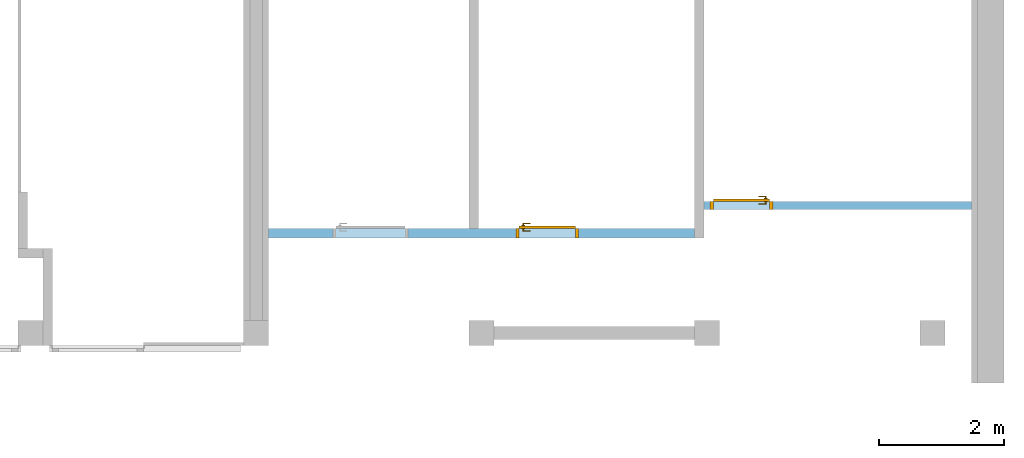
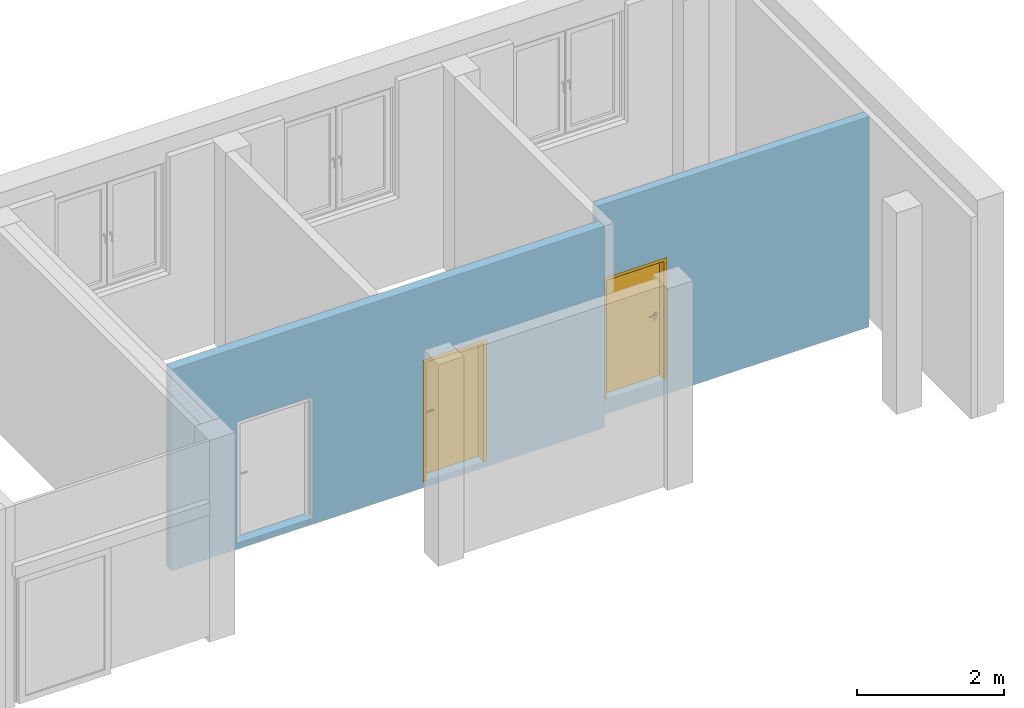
# One storey, part 35 of 37: 2 doors, 3 openings, plus 2 elements that do not belong to this part.
"""IFC4 building model written with IfcOpenShell, lengths in metres."""

import ifcopenshell
import ifcopenshell.guid

model = None  # the IFC model being written
_history = None  # IfcOwnerHistory: only IFC2X3 demands one
_inside = {}  # id of a spatial element -> (the spatial element, [elements in it])
_under = {}  # id of a project, library or spatial element -> (it, [spatial elements below it])
_declared = {}  # id of a project -> (the project, [libraries it declares])
_typed = {}  # id of a type object -> (the type object, [elements of that type])
_made_of = {}  # id of a material, layer set ... -> (it, [elements and type objects made of it])


def new_model(schema):
    """Start an empty IFC model of exactly this schema.

    Asked for "IFC4X3", IfcOpenShell would pick the latest addendum, in which some entities
    have other attributes; the version numbers below select the first issue.
    IFC2X3 requires an IfcOwnerHistory on every rooted entity: one is made here for all.
    """
    global model, _history
    if schema == "IFC4X3":
        model = ifcopenshell.file(schema_version=(4, 3, 0, 0))
    else:
        model = ifcopenshell.file(schema=schema)
    _inside.clear()
    _under.clear()
    _declared.clear()
    _typed.clear()
    _made_of.clear()
    _history = None
    if model.schema == "IFC2X3":
        org = make("IfcOrganization", Name="unknown")
        user = make(
            "IfcPersonAndOrganization",
            ThePerson=make("IfcPerson", FamilyName="unknown"),
            TheOrganization=org,
        )
        app = make(
            "IfcApplication",
            ApplicationDeveloper=org,
            Version="unknown",
            ApplicationFullName="unknown",
            ApplicationIdentifier="unknown",
        )
        _history = make(
            "IfcOwnerHistory",
            OwningUser=user,
            OwningApplication=app,
            ChangeAction="ADDED",
            CreationDate=0,
        )
    return model


def make(cls, **values):
    """One entity of the class cls with the attributes given. An attribute that is None is left unset."""
    return model.create_entity(
        cls, **{name: value for name, value in values.items() if value is not None}
    )


def entity(cls, *values):
    """Any entity or typed value of the class cls, its attributes in the order of the schema. None: left unset."""
    e = model.create_entity(cls)
    for i, value in enumerate(values):
        if value is not None:
            e[i] = value
    return e


def rooted(cls, **values):
    """An entity with a GlobalId (a new one), such as an element, a storey or a relation."""
    return make(cls, GlobalId=ifcopenshell.guid.new(), OwnerHistory=_history, **values)


def si_unit(unit_type, name, prefix=None):
    """IfcSIUnit, for example si_unit("LENGTHUNIT", "METRE", prefix="MILLI")."""
    return make("IfcSIUnit", UnitType=unit_type, Prefix=prefix, Name=name)


def converted_unit(unit_type, name, factor, base, dimensions=None, offset=None):
    """IfcConversionBasedUnit, such as the inch: factor (a typed value) times the base unit."""
    return make(
        "IfcConversionBasedUnit"
        if offset is None
        else "IfcConversionBasedUnitWithOffset",
        ConversionOffset=offset,
        Dimensions=None
        if dimensions is None
        else entity("IfcDimensionalExponents", *dimensions),
        UnitType=unit_type,
        Name=name,
        ConversionFactor=make(
            "IfcMeasureWithUnit", ValueComponent=factor, UnitComponent=base
        ),
    )


def derived_unit(unit_type, elements):
    """IfcDerivedUnit: a product of units, each with its exponent."""
    return make(
        "IfcDerivedUnit",
        Elements=[
            make("IfcDerivedUnitElement", Unit=unit, Exponent=power)
            for unit, power in elements
        ],
        UnitType=unit_type,
    )


def assignment(units):
    """IfcUnitAssignment: the units of a project."""
    return None if units is None else make("IfcUnitAssignment", Units=units)


def point(xyz):
    """IfcCartesianPoint."""
    return None if xyz is None else make("IfcCartesianPoint", Coordinates=xyz)


def direction(xyz):
    """IfcDirection."""
    return None if xyz is None else make("IfcDirection", DirectionRatios=xyz)


def frame(location, z_axis=None, x_axis=None):
    """IfcAxis2Placement3D, a coordinate frame: its origin and axes. An axis left out is left unset."""
    return make(
        "IfcAxis2Placement3D",
        Location=point(location),
        Axis=direction(z_axis),
        RefDirection=direction(x_axis),
    )


def frame_2d(location, x_axis=None):
    """IfcAxis2Placement2D, a coordinate frame in the plane: its origin and x axis."""
    return make(
        "IfcAxis2Placement2D", Location=point(location), RefDirection=direction(x_axis)
    )


def origin():
    """The frame at (0, 0, 0) with its axes left unset."""
    return frame((0.0, 0.0, 0.0))


def origin_with_axes():
    """The frame at (0, 0, 0) with the z axis (0, 0, 1) and the x axis (1, 0, 0) written out."""
    return frame((0.0, 0.0, 0.0), z_axis=(0.0, 0.0, 1.0), x_axis=(1.0, 0.0, 0.0))


def place(relative_to, where):
    """IfcLocalPlacement: puts the frame where relative to a parent placement (None: the world)."""
    return make(
        "IfcLocalPlacement", PlacementRelTo=relative_to, RelativePlacement=where
    )


def context(
    kind, dimensions, precision=None, world=None, true_north=None, identifier=None
):
    """IfcGeometricRepresentationContext, for example the 3D "Model" context."""
    return make(
        "IfcGeometricRepresentationContext",
        ContextIdentifier=identifier,
        ContextType=kind,
        CoordinateSpaceDimension=dimensions,
        Precision=precision,
        WorldCoordinateSystem=world,
        TrueNorth=true_north,
    )


def subcontext(parent, identifier, kind, view, scale=None):
    """IfcGeometricRepresentationSubContext, for example "Body" below "Model"."""
    return make(
        "IfcGeometricRepresentationSubContext",
        ContextIdentifier=identifier,
        ContextType=kind,
        ParentContext=parent,
        TargetScale=scale,
        TargetView=view,
    )


def project(units=None, contexts=None):
    """IfcProject with its units and contexts."""
    return rooted(
        "IfcProject",
        Name="project",
        RepresentationContexts=contexts,
        UnitsInContext=assignment(units),
    )


def spatial(cls, under=None, at=None, **own):
    """A site, building, storey or space (cls), placed at a placement, below another one or the project."""
    s = rooted(cls, ObjectPlacement=at, **own)
    if under is not None:
        _under.setdefault(under.id(), (under, []))[1].append(s)
    return s


def polyline(points):
    """IfcPolyline through the points."""
    return make("IfcPolyline", Points=[point(p) for p in points])


def profile(cls, at=None, kind="AREA", **sizes):
    """A parametric profile (cls). Its sizes go by their IFC names, for example OverallWidth=200.0."""
    return make(cls, ProfileType=kind, Position=at, **sizes)


def rectangle(**sizes):
    """IfcRectangleProfileDef."""
    return profile("IfcRectangleProfileDef", **sizes)


def outline(outer, holes=None, kind="AREA"):
    """IfcArbitraryClosedProfileDef: a profile drawn as a closed curve; with holes, ...WithVoids."""
    if holes is None:
        return make("IfcArbitraryClosedProfileDef", ProfileType=kind, OuterCurve=outer)
    return make(
        "IfcArbitraryProfileDefWithVoids",
        ProfileType=kind,
        OuterCurve=outer,
        InnerCurves=holes,
    )


def extrude(swept, where, along, depth):
    """IfcExtrudedAreaSolid: the profile swept, set in the frame where, extruded along a direction by depth."""
    return make(
        "IfcExtrudedAreaSolid",
        SweptArea=swept,
        Position=where,
        ExtrudedDirection=direction(along),
        Depth=depth,
    )


def faces_of(points, faces, orient=None, outer=None):
    """IfcFace entities. A face is a list of loops; a loop is a list of indices into points, from 0.

    orient and outer hold one flag for each loop. By default every Orientation is true, the
    first loop of a face is its IfcFaceOuterBound and the others are IfcFaceBound.
    """
    made = []
    for i, loops in enumerate(faces):
        bounds = []
        for j, loop in enumerate(loops):
            is_outer = j == 0 if outer is None else outer[i][j]
            bounds.append(
                make(
                    "IfcFaceOuterBound" if is_outer else "IfcFaceBound",
                    Bound=make("IfcPolyLoop", Polygon=[points[k] for k in loop]),
                    Orientation=True if orient is None else orient[i][j],
                )
            )
        made.append(make("IfcFace", Bounds=bounds))
    return made


def closed_shell(faces, orient=None, outer=None):
    """The faces of one IfcClosedShell. faceted_brep and surface_model build it on their shared points."""
    return ("IfcClosedShell", faces, orient, outer)


def open_shell(faces, orient=None, outer=None):
    """The faces of one IfcOpenShell. surface_model builds it on its shared points."""
    return ("IfcOpenShell", faces, orient, outer)


def surface_model(cls, points, shells):
    """IfcFaceBasedSurfaceModel or IfcShellBasedSurfaceModel (cls): surfaces that need not close."""
    shared = [point(p) for p in points]
    made = [make(c, CfsFaces=faces_of(shared, fs, o, b)) for c, fs, o, b in shells]
    if cls == "IfcFaceBasedSurfaceModel":
        return make(cls, FbsmFaces=made)
    return make(cls, SbsmBoundary=made)


def shape(context_of_items, identifier, shape_type, items):
    """IfcShapeRepresentation: the items that make up one representation, for example the "Body"."""
    return make(
        "IfcShapeRepresentation",
        ContextOfItems=context_of_items,
        RepresentationIdentifier=identifier,
        RepresentationType=shape_type,
        Items=items,
    )


def source(mapping_origin, context_of_items, identifier, shape_type, items):
    """IfcRepresentationMap: a shape defined once, which mapped items show again and again."""
    return make(
        "IfcRepresentationMap",
        MappingOrigin=mapping_origin,
        MappedRepresentation=shape(context_of_items, identifier, shape_type, items),
    )


def transform(
    local_origin,
    x_axis=None,
    y_axis=None,
    z_axis=None,
    scale=None,
    scale2=None,
    scale3=None,
    uniform=True,
):
    """IfcCartesianTransformationOperator3D, or its non-uniform kind. x_axis, y_axis, z_axis: its Axis1, 2, 3."""
    if uniform:
        return make(
            "IfcCartesianTransformationOperator3D",
            Axis1=direction(x_axis),
            Axis2=direction(y_axis),
            LocalOrigin=point(local_origin),
            Scale=scale,
            Axis3=direction(z_axis),
        )
    return make(
        "IfcCartesianTransformationOperator3DnonUniform",
        Axis1=direction(x_axis),
        Axis2=direction(y_axis),
        LocalOrigin=point(local_origin),
        Scale=scale,
        Axis3=direction(z_axis),
        Scale2=scale2,
        Scale3=scale3,
    )


def mapped(mapping_source, mapping_target):
    """IfcMappedItem: shows the shape of a source again, moved by a transform."""
    return make(
        "IfcMappedItem", MappingSource=mapping_source, MappingTarget=mapping_target
    )


def material(Name=None, Category=None):
    """IfcMaterial."""
    return make("IfcMaterial", Name=Name, Category=Category)


def layer(
    of_material, thickness, ventilated=None, Name=None, Category=None, Priority=None
):
    """IfcMaterialLayer: one layer of a wall or slab, of a material (None: an air gap)."""
    return make(
        "IfcMaterialLayer",
        Material=of_material,
        LayerThickness=thickness,
        IsVentilated=ventilated,
        Name=Name,
        Category=Category,
        Priority=Priority,
    )


def layer_set(layers, Name=None):
    """IfcMaterialLayerSet."""
    return make("IfcMaterialLayerSet", MaterialLayers=layers, LayerSetName=Name)


def layer_usage(for_layer_set, set_direction, sense, offset, extent=None):
    """IfcMaterialLayerSetUsage: how a layer set lies in its element."""
    return make(
        "IfcMaterialLayerSetUsage",
        ForLayerSet=for_layer_set,
        LayerSetDirection=set_direction,
        DirectionSense=sense,
        OffsetFromReferenceLine=offset,
        ReferenceExtent=extent,
    )


def made_of(thing, what):
    """Note that an element or type object is made of a material, layer set ...; save() writes the relation."""
    if what is not None:
        _made_of.setdefault(what.id(), (what, []))[1].append(thing)
    return thing


def type_object(cls, material=None, **own):
    """A type object (cls), such as IfcWallType, which elements share."""
    return made_of(rooted(cls, **own), material)


def element(
    cls,
    number,
    at=None,
    inside=None,
    cuts=None,
    type_object=None,
    material=None,
    context=None,
    identifier="Body",
    shape_type=None,
    held_by="IfcProductDefinitionShape",
    body=None,
    shapes=None,
    **own,
):
    """One element of the class cls, such as IfcWall. Its Tag is "e" and its number.

    at: its placement. inside: the storey or other place that contains it. cuts: it is an
    opening in that element (IfcRelVoidsElement). A single representation is given by context,
    identifier, shape_type and body (its items); several are given by shapes. held_by: the class
    of the entity that holds the representations. save() writes the other relations.
    """
    e = rooted(cls, Tag="e%d" % number, ObjectPlacement=at, **own)
    if body is not None:
        shapes = [shape(context, identifier, shape_type, body)]
    if shapes is not None:
        e.Representation = make(held_by, Representations=shapes)
    if inside is not None:
        _inside.setdefault(inside.id(), (inside, []))[1].append(e)
    if cuts is not None:
        rooted(
            "IfcRelVoidsElement", RelatingBuildingElement=cuts, RelatedOpeningElement=e
        )
    if type_object is not None:
        _typed.setdefault(type_object.id(), (type_object, []))[1].append(e)
    return made_of(e, material)


def fill(opening, filler):
    """IfcRelFillsElement: the door or window that sits in an opening."""
    return rooted(
        "IfcRelFillsElement",
        RelatingOpeningElement=opening,
        RelatedBuildingElement=filler,
    )


def aggregate(whole, parts):
    """IfcRelAggregates: a whole, such as a stair, and the parts it consists of."""
    return rooted("IfcRelAggregates", RelatingObject=whole, RelatedObjects=parts)


def save(model, path):
    """Write the relations noted so far, then the file.

    IfcRelAggregates (storeys below a building ...), IfcRelContainedInSpatialStructure (elements
    in a storey), IfcRelDefinesByType, IfcRelAssociatesMaterial and IfcRelDeclares: one each for
    every whole, place, type object, material and project.
    """
    for whole, parts in _under.values():
        aggregate(whole, parts)
    for where, things in _inside.values():
        rooted(
            "IfcRelContainedInSpatialStructure",
            RelatedElements=things,
            RelatingStructure=where,
        )
    for kind, things in _typed.values():
        rooted("IfcRelDefinesByType", RelatedObjects=things, RelatingType=kind)
    for what, things in _made_of.values():
        rooted("IfcRelAssociatesMaterial", RelatedObjects=things, RelatingMaterial=what)
    for by, libraries in _declared.values():
        rooted("IfcRelDeclares", RelatingContext=by, RelatedDefinitions=libraries)
    model.write(path)


model = new_model("IFC4")

# Units and contexts
model_context = context("Model", 3, precision=1e-05, world=origin())
body_context = subcontext(model_context, "Body", "Model", "MODEL_VIEW")
ifc_project = project(units=[si_unit("LENGTHUNIT", "METRE"), si_unit("AREAUNIT", "SQUARE_METRE"), si_unit("VOLUMEUNIT", "CUBIC_METRE"), si_unit("MASSUNIT", "GRAM", prefix="KILO"), converted_unit("PLANEANGLEUNIT", "DEGREE", entity("IfcPlaneAngleMeasure", 0.0174532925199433), si_unit("PLANEANGLEUNIT", "RADIAN"), dimensions=[0, 0, 0, 0, 0, 0, 0]), derived_unit("THERMALTRANSMITTANCEUNIT", [(si_unit("POWERUNIT", "WATT"), 1), (si_unit("THERMODYNAMICTEMPERATUREUNIT", "KELVIN"), -1), (si_unit("LENGTHUNIT", "METRE"), -2)]), derived_unit("VOLUMETRICFLOWRATEUNIT", [(si_unit("LENGTHUNIT", "METRE"), 3), (converted_unit("TIMEUNIT", "hour", entity("IfcTimeMeasure", 3600.0), si_unit("TIMEUNIT", "SECOND"), dimensions=[0, 0, 1, 0, 0, 0, 0]), -1), (si_unit("LENGTHUNIT", "METRE"), -1)])], contexts=[model_context])

# Site, building, storey
site_placement = place(None, origin())
site = spatial("IfcSite", under=ifc_project, at=site_placement, Name="3. ASŘ", CompositionType="ELEMENT")
building_placement = place(site_placement, origin())
building = spatial("IfcBuilding", under=site, at=building_placement, Name="Pavilon B", CompositionType="ELEMENT")
storey_placement = place(building_placement, origin())
storey = spatial("IfcBuildingStorey", under=building, at=storey_placement, Name="Půdorys 1.NP", CompositionType="ELEMENT", Elevation=0.0)

# Wall, openings, door
ifc_material_1 = material(Name="YTONG 150")
ifc_layer_1 = layer(ifc_material_1, 0.15)
ifc_layer_set_1 = layer_set([ifc_layer_1])
ifc_layer_usage_1 = layer_usage(ifc_layer_set_1, "AXIS2", "POSITIVE", 0.0)
wall_1_placement = place(storey_placement, frame((81.3, -19.93, -0.1), z_axis=(0.0, 0.0, 1.0), x_axis=(-1.0, 0.0, 0.0)))
wall_1 = element("IfcWall", 1, at=wall_1_placement, inside=storey, material=ifc_layer_usage_1, Name="YTONG 150", context=body_context, shape_type="SweptSolid", body=[
    extrude(rectangle(XDim=6.8, YDim=0.15, at=frame_2d((3.4, 0.075), x_axis=(1.0, 0.0))), origin_with_axes(), (0.0, 0.0, 1.0), 3.35),
])
opening_1_placement = place(wall_1_placement, frame((4.575, 0.0, 0.1), z_axis=(0.0, 1.0, 0.0), x_axis=(0.0, 0.0, 1.0)))
element("IfcOpeningElement", 2, at=opening_1_placement, cuts=wall_1, Name="Dveřní otvor", ObjectType="Opening", context=body_context, shape_type="SweptSolid", body=[
    extrude(outline(polyline([(0.0, 1.2), (2.02, 1.2), (2.02, 0.0), (0.0, 0.0), (0.0, 1.2)])), origin_with_axes(), (0.0, 0.0, 1.0), 0.15),
])
opening_2_placement = place(wall_1_placement, frame((1.85, 0.0, 0.1), z_axis=(0.0, 1.0, 0.0), x_axis=(0.0, 0.0, 1.0)))
opening_2 = element("IfcOpeningElement", 3, at=opening_2_placement, cuts=wall_1, Name="Dveřní otvor", ObjectType="Opening", context=body_context, shape_type="SweptSolid", body=[
    extrude(outline(polyline([(0.0, 1.0), (2.02, 1.0), (2.02, 0.0), (0.0, 0.0), (0.0, 1.0)])), origin_with_axes(), (0.0, 0.0, 1.0), 0.15),
])
door_type_1 = type_object("IfcDoorType", Name="D101", OperationType="NOTDEFINED", ParameterTakesPrecedence=False, PredefinedType="DOOR")
shared_shape_1 = source(origin_with_axes(), body_context, "Body", "SurfaceModel", [
    surface_model("IfcShellBasedSurfaceModel", [(0.0, 0.15, 2.02), (0.0, 0.15, -9.18485099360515e-18), (0.05, 0.15, -9.18485099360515e-18), (0.05, 0.15, 2.02), (0.0, 0.0, 9.18485099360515e-18), (0.0, 2.55795384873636e-16, 2.02), (0.05, 2.55795384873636e-16, 2.02), (0.05, 0.0, 9.18485099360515e-18)], [closed_shell([[[0, 1, 2, 3]], [[4, 5, 6, 7]], [[1, 0, 5, 4]], [[2, 1, 4, 7]], [[3, 2, 7, 6]], [[0, 3, 6, 5]]], orient=[[False], [False], [False], [False], [False], [False]])]),
    surface_model("IfcShellBasedSurfaceModel", [(0.95, 0.15, 2.02), (0.95, 0.15, -9.18485099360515e-18), (1.0, 0.15, -9.18485099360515e-18), (1.0, 0.15, 2.02), (0.95, 0.0, 9.18485099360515e-18), (0.95, 2.55795384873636e-16, 2.02), (1.0, 2.55795384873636e-16, 2.02), (1.0, 0.0, 9.18485099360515e-18)], [closed_shell([[[0, 1, 2, 3]], [[4, 5, 6, 7]], [[1, 0, 5, 4]], [[2, 1, 4, 7]], [[3, 2, 7, 6]], [[0, 3, 6, 5]]], orient=[[False], [False], [False], [False], [False], [False]])]),
    surface_model("IfcShellBasedSurfaceModel", [(0.05, 0.15, 2.02), (0.05, 0.15, 1.97), (0.95, 0.15, 1.97), (0.95, 0.15, 2.02), (0.05, 2.27373675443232e-16, 1.97), (0.05, 2.27373675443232e-16, 2.02), (0.95, 2.27373675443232e-16, 2.02), (0.95, 2.27373675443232e-16, 1.97)], [closed_shell([[[0, 1, 2, 3]], [[4, 5, 6, 7]], [[1, 0, 5, 4]], [[2, 1, 4, 7]], [[3, 2, 7, 6]], [[0, 3, 6, 5]]], orient=[[False], [False], [False], [False], [False], [False]])]),
    surface_model("IfcShellBasedSurfaceModel", [(0.05, 0.19, 1.97), (0.05, 0.19, -1.40834381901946e-17), (0.95, 0.19, -1.40834381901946e-17), (0.95, 0.19, 1.97), (0.05, 0.15, -9.18485099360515e-18), (0.05, 0.15, 1.97), (0.95, 0.15, 1.97), (0.95, 0.15, -9.18485099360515e-18)], [closed_shell([[[0, 1, 2, 3]], [[4, 5, 6, 7]], [[1, 0, 5, 4]], [[2, 1, 4, 7]], [[3, 2, 7, 6]], [[0, 3, 6, 5]]], orient=[[False], [False], [False], [False], [False], [False]])]),
    surface_model("IfcShellBasedSurfaceModel", [(0.908815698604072, 0.15, 0.93625), (0.9125, 0.15, 0.95), (0.908815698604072, 0.15, 0.96375), (0.89875, 0.15, 0.973815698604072), (0.885, 0.15, 0.9775), (0.87125, 0.15, 0.973815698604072), (0.861184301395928, 0.15, 0.96375), (0.8575, 0.15, 0.95), (0.861184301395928, 0.15, 0.93625), (0.87125, 0.15, 0.926184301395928), (0.885, 0.15, 0.9225), (0.89875, 0.15, 0.926184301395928), (0.9125, 0.1375, 0.95), (0.908815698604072, 0.1375, 0.93625), (0.89875, 0.1375, 0.926184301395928), (0.885, 0.1375, 0.9225), (0.87125, 0.1375, 0.926184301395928), (0.861184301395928, 0.1375, 0.93625), (0.8575, 0.1375, 0.95), (0.861184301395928, 0.1375, 0.96375), (0.87125, 0.1375, 0.973815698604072), (0.885, 0.1375, 0.9775), (0.89875, 0.1375, 0.973815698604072), (0.908815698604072, 0.1375, 0.96375)], [closed_shell([[[0, 1, 2, 3, 4, 5, 6, 7, 8, 9, 10, 11]], [[12, 13, 14, 15, 16, 17, 18, 19, 20, 21, 22, 23]], [[1, 0, 13, 12]], [[2, 1, 12, 23]], [[3, 2, 23, 22]], [[4, 3, 22, 21]], [[5, 4, 21, 20]], [[6, 5, 20, 19]], [[7, 6, 19, 18]], [[8, 7, 18, 17]], [[9, 8, 17, 16]], [[10, 9, 16, 15]], [[11, 10, 15, 14]], [[0, 11, 14, 13]]], orient=[[False], [False], [False], [False], [False], [False], [False], [False], [False], [False], [False], [False], [False], [False]])]),
    surface_model("IfcShellBasedSurfaceModel", [(0.908815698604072, 0.15, 1.03625), (0.9125, 0.15, 1.05), (0.908815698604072, 0.15, 1.06375), (0.89875, 0.15, 1.07381569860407), (0.885, 0.15, 1.0775), (0.87125, 0.15, 1.07381569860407), (0.861184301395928, 0.15, 1.06375), (0.8575, 0.15, 1.05), (0.861184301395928, 0.15, 1.03625), (0.87125, 0.15, 1.02618430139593), (0.885, 0.15, 1.0225), (0.89875, 0.15, 1.02618430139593), (0.9125, 0.1375, 1.05), (0.908815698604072, 0.1375, 1.03625), (0.89875, 0.1375, 1.02618430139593), (0.885, 0.1375, 1.0225), (0.87125, 0.1375, 1.02618430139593), (0.861184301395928, 0.1375, 1.03625), (0.8575, 0.1375, 1.05), (0.861184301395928, 0.1375, 1.06375), (0.87125, 0.1375, 1.07381569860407), (0.885, 0.1375, 1.0775), (0.89875, 0.1375, 1.07381569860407), (0.908815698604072, 0.1375, 1.06375)], [closed_shell([[[0, 1, 2, 3, 4, 5, 6, 7, 8, 9, 10, 11]], [[12, 13, 14, 15, 16, 17, 18, 19, 20, 21, 22, 23]], [[1, 0, 13, 12]], [[2, 1, 12, 23]], [[3, 2, 23, 22]], [[4, 3, 22, 21]], [[5, 4, 21, 20]], [[6, 5, 20, 19]], [[7, 6, 19, 18]], [[8, 7, 18, 17]], [[9, 8, 17, 16]], [[10, 9, 16, 15]], [[11, 10, 15, 14]], [[0, 11, 14, 13]]], orient=[[False], [False], [False], [False], [False], [False], [False], [False], [False], [False], [False], [False], [False], [False]])]),
    surface_model("IfcShellBasedSurfaceModel", [(0.885, 0.15, 1.06), (0.88, 0.15, 1.05866025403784), (0.876339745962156, 0.15, 1.055), (0.875, 0.15, 1.05), (0.876339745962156, 0.15, 1.045), (0.88, 0.15, 1.04133974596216), (0.885, 0.15, 1.04), (0.89, 0.15, 1.04133974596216), (0.893660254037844, 0.15, 1.045), (0.895, 0.15, 1.05), (0.893660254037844, 0.15, 1.055), (0.89, 0.15, 1.05866025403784), (0.89, 0.105, 1.05866025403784), (0.885, 0.11, 1.06), (0.893660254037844, 0.101339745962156, 1.055), (0.895, 0.1, 1.05), (0.893660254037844, 0.101339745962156, 1.045), (0.89, 0.105, 1.04133974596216), (0.885, 0.11, 1.04), (0.88, 0.115, 1.04133974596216), (0.876339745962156, 0.118660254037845, 1.045), (0.875, 0.12, 1.05), (0.876339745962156, 0.118660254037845, 1.055), (0.88, 0.115, 1.05866025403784), (0.77, 0.105, 1.05866025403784), (0.77, 0.11, 1.06), (0.77, 0.101339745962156, 1.055), (0.77, 0.1, 1.05), (0.77, 0.101339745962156, 1.045), (0.77, 0.105, 1.04133974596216), (0.77, 0.11, 1.04), (0.77, 0.115, 1.04133974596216), (0.77, 0.118660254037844, 1.045), (0.77, 0.12, 1.05), (0.77, 0.118660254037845, 1.055), (0.77, 0.115, 1.05866025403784)], [open_shell([[[0, 1, 2, 3, 4, 5, 6, 7, 8, 9, 10, 11]], [[0, 11, 12, 13]], [[11, 10, 14, 12]], [[10, 9, 15, 14]], [[9, 8, 16, 15]], [[8, 7, 17, 16]], [[7, 6, 18, 17]], [[6, 5, 19, 18]], [[5, 4, 20, 19]], [[4, 3, 21, 20]], [[3, 2, 22, 21]], [[2, 1, 23, 22]], [[1, 0, 13, 23]], [[13, 12, 24, 25]], [[12, 14, 26, 24]], [[14, 15, 27, 26]], [[15, 16, 28, 27]], [[16, 17, 29, 28]], [[17, 18, 30, 29]], [[18, 19, 31, 30]], [[19, 20, 32, 31]], [[20, 21, 33, 32]], [[21, 22, 34, 33]], [[22, 23, 35, 34]], [[23, 13, 25, 35]]], orient=[[False], [False], [False], [False], [False], [False], [False], [False], [False], [False], [False], [False], [False], [False], [False], [False], [False], [False], [False], [False], [False], [False], [False], [False], [False]])]),
    surface_model("IfcShellBasedSurfaceModel", [(0.908815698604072, 0.19, 0.93625), (0.89875, 0.19, 0.926184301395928), (0.885, 0.19, 0.9225), (0.87125, 0.19, 0.926184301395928), (0.861184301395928, 0.19, 0.93625), (0.8575, 0.19, 0.95), (0.861184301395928, 0.19, 0.96375), (0.87125, 0.19, 0.973815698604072), (0.885, 0.19, 0.9775), (0.89875, 0.19, 0.973815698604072), (0.908815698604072, 0.19, 0.96375), (0.9125, 0.19, 0.95), (0.9125, 0.2025, 0.95), (0.908815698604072, 0.2025, 0.96375), (0.89875, 0.2025, 0.973815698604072), (0.885, 0.2025, 0.9775), (0.87125, 0.2025, 0.973815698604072), (0.861184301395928, 0.2025, 0.96375), (0.8575, 0.2025, 0.95), (0.861184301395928, 0.2025, 0.93625), (0.87125, 0.2025, 0.926184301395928), (0.885, 0.2025, 0.9225), (0.89875, 0.2025, 0.926184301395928), (0.908815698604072, 0.2025, 0.93625)], [closed_shell([[[0, 1, 2, 3, 4, 5, 6, 7, 8, 9, 10, 11]], [[12, 13, 14, 15, 16, 17, 18, 19, 20, 21, 22, 23]], [[11, 12, 23, 0]], [[10, 13, 12, 11]], [[9, 14, 13, 10]], [[8, 15, 14, 9]], [[7, 16, 15, 8]], [[6, 17, 16, 7]], [[5, 18, 17, 6]], [[4, 19, 18, 5]], [[3, 20, 19, 4]], [[2, 21, 20, 3]], [[1, 22, 21, 2]], [[0, 23, 22, 1]]], orient=[[False], [False], [False], [False], [False], [False], [False], [False], [False], [False], [False], [False], [False], [False]])]),
    surface_model("IfcShellBasedSurfaceModel", [(0.908815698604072, 0.19, 1.03625), (0.89875, 0.19, 1.02618430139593), (0.885, 0.19, 1.0225), (0.87125, 0.19, 1.02618430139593), (0.861184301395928, 0.19, 1.03625), (0.8575, 0.19, 1.05), (0.861184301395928, 0.19, 1.06375), (0.87125, 0.19, 1.07381569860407), (0.885, 0.19, 1.0775), (0.89875, 0.19, 1.07381569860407), (0.908815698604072, 0.19, 1.06375), (0.9125, 0.19, 1.05), (0.9125, 0.2025, 1.05), (0.908815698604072, 0.2025, 1.06375), (0.89875, 0.2025, 1.07381569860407), (0.885, 0.2025, 1.0775), (0.87125, 0.2025, 1.07381569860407), (0.861184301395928, 0.2025, 1.06375), (0.8575, 0.2025, 1.05), (0.861184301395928, 0.2025, 1.03625), (0.87125, 0.2025, 1.02618430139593), (0.885, 0.2025, 1.0225), (0.89875, 0.2025, 1.02618430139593), (0.908815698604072, 0.2025, 1.03625)], [closed_shell([[[0, 1, 2, 3, 4, 5, 6, 7, 8, 9, 10, 11]], [[12, 13, 14, 15, 16, 17, 18, 19, 20, 21, 22, 23]], [[11, 12, 23, 0]], [[10, 13, 12, 11]], [[9, 14, 13, 10]], [[8, 15, 14, 9]], [[7, 16, 15, 8]], [[6, 17, 16, 7]], [[5, 18, 17, 6]], [[4, 19, 18, 5]], [[3, 20, 19, 4]], [[2, 21, 20, 3]], [[1, 22, 21, 2]], [[0, 23, 22, 1]]], orient=[[False], [False], [False], [False], [False], [False], [False], [False], [False], [False], [False], [False], [False], [False]])]),
    surface_model("IfcShellBasedSurfaceModel", [(0.885, 0.19, 1.06), (0.89, 0.19, 1.05866025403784), (0.893660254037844, 0.19, 1.055), (0.895, 0.19, 1.05), (0.893660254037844, 0.19, 1.045), (0.89, 0.19, 1.04133974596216), (0.885, 0.19, 1.04), (0.88, 0.19, 1.04133974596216), (0.876339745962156, 0.19, 1.045), (0.875, 0.19, 1.05), (0.876339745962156, 0.19, 1.055), (0.88, 0.19, 1.05866025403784), (0.885, 0.23, 1.06), (0.89, 0.235, 1.05866025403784), (0.893660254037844, 0.238660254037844, 1.055), (0.895, 0.24, 1.05), (0.893660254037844, 0.238660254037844, 1.045), (0.89, 0.235, 1.04133974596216), (0.885, 0.23, 1.04), (0.88, 0.225, 1.04133974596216), (0.876339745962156, 0.221339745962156, 1.045), (0.875, 0.22, 1.05), (0.876339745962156, 0.221339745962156, 1.055), (0.88, 0.225, 1.05866025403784), (0.77, 0.23, 1.06), (0.77, 0.235, 1.05866025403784), (0.77, 0.238660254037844, 1.055), (0.77, 0.24, 1.05), (0.77, 0.238660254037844, 1.045), (0.77, 0.235, 1.04133974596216), (0.77, 0.23, 1.04), (0.77, 0.225, 1.04133974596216), (0.77, 0.221339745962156, 1.045), (0.77, 0.22, 1.05), (0.77, 0.221339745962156, 1.055), (0.77, 0.225, 1.05866025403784)], [open_shell([[[0, 1, 2, 3, 4, 5, 6, 7, 8, 9, 10, 11]], [[0, 12, 13, 1]], [[1, 13, 14, 2]], [[2, 14, 15, 3]], [[3, 15, 16, 4]], [[4, 16, 17, 5]], [[5, 17, 18, 6]], [[6, 18, 19, 7]], [[7, 19, 20, 8]], [[8, 20, 21, 9]], [[9, 21, 22, 10]], [[10, 22, 23, 11]], [[11, 23, 12, 0]], [[12, 24, 25, 13]], [[13, 25, 26, 14]], [[14, 26, 27, 15]], [[15, 27, 28, 16]], [[16, 28, 29, 17]], [[17, 29, 30, 18]], [[18, 30, 31, 19]], [[19, 31, 32, 20]], [[20, 32, 33, 21]], [[21, 33, 34, 22]], [[22, 34, 35, 23]], [[23, 35, 24, 12]]], orient=[[False], [False], [False], [False], [False], [False], [False], [False], [False], [False], [False], [False], [False], [False], [False], [False], [False], [False], [False], [False], [False], [False], [False], [False], [False]])]),
])
door_1_placement = place(opening_2_placement, frame((0.0, 0.0, 0.15), z_axis=(1.0, 0.0, 0.0), x_axis=(0.0, 1.0, -2.44929359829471e-16)))
door_1 = element("IfcDoor", 4, at=door_1_placement, inside=storey, type_object=door_type_1, Name="D101", OverallHeight=2.02, OverallWidth=1.0, context=body_context, shape_type="MappedRepresentation", body=[
    mapped(shared_shape_1, transform((0.0, 0.0, 0.0), x_axis=(1.0, 0.0, 0.0), y_axis=(0.0, -1.0, 0.0), z_axis=(0.0, 0.0, 1.0), scale=1.0)),
])
fill(opening_2, door_1)

# Wall, opening, door
ifc_material_2 = material(Name="YTONG 125")
ifc_layer_2 = layer(ifc_material_2, 0.125)
ifc_layer_set_2 = layer_set([ifc_layer_2])
ifc_layer_usage_2 = layer_usage(ifc_layer_set_2, "AXIS2", "POSITIVE", 0.0)
wall_2_placement = place(storey_placement, frame((85.72, -19.5, -0.25), z_axis=(0.0, 0.0, 1.0), x_axis=(-1.0, 0.0, 0.0)))
wall_2 = element("IfcWall", 5, at=wall_2_placement, inside=storey, material=ifc_layer_usage_2, Name="YTONG 125", context=body_context, shape_type="SweptSolid", body=[
    extrude(rectangle(XDim=4.27, YDim=0.125, at=frame_2d((2.135, 0.0625), x_axis=(1.0, 0.0))), origin_with_axes(), (0.0, 0.0, 1.0), 3.5),
])
opening_3_placement = place(wall_2_placement, frame((3.17, 0.0, 0.25), z_axis=(0.0, 1.0, 0.0), x_axis=(0.0, 0.0, 1.0)))
opening_3 = element("IfcOpeningElement", 6, at=opening_3_placement, cuts=wall_2, Name="Dveřní otvor", ObjectType="Opening", context=body_context, shape_type="SweptSolid", body=[
    extrude(outline(polyline([(0.0, 1.0), (2.02, 1.0), (2.02, 0.0), (0.0, 0.0), (0.0, 1.0)])), origin_with_axes(), (0.0, 0.0, 1.0), 0.125),
])
door_type_2 = type_object("IfcDoorType", Name="D101", OperationType="NOTDEFINED", ParameterTakesPrecedence=False, PredefinedType="DOOR")
shared_shape_2 = source(origin_with_axes(), body_context, "Body", "SurfaceModel", [
    surface_model("IfcShellBasedSurfaceModel", [(0.0, 0.125, 2.02), (0.0, 0.125, -7.65404249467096e-18), (0.05, 0.125, -7.65404249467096e-18), (0.05, 0.125, 2.02), (0.0, 0.0, 7.65404249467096e-18), (0.0, 2.41584530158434e-16, 2.02), (0.05, 2.41584530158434e-16, 2.02), (0.05, 0.0, 7.65404249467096e-18)], [closed_shell([[[0, 1, 2, 3]], [[4, 5, 6, 7]], [[1, 0, 5, 4]], [[2, 1, 4, 7]], [[3, 2, 7, 6]], [[0, 3, 6, 5]]], orient=[[False], [False], [False], [False], [False], [False]])]),
    surface_model("IfcShellBasedSurfaceModel", [(0.95, 0.125, 2.02), (0.95, 0.125, -7.65404249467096e-18), (1.0, 0.125, -7.65404249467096e-18), (1.0, 0.125, 2.02), (0.95, 0.0, 7.65404249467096e-18), (0.95, 2.41584530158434e-16, 2.02), (1.0, 2.41584530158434e-16, 2.02), (1.0, 0.0, 7.65404249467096e-18)], [closed_shell([[[0, 1, 2, 3]], [[4, 5, 6, 7]], [[1, 0, 5, 4]], [[2, 1, 4, 7]], [[3, 2, 7, 6]], [[0, 3, 6, 5]]], orient=[[False], [False], [False], [False], [False], [False]])]),
    surface_model("IfcShellBasedSurfaceModel", [(0.05, 0.125, 2.02), (0.05, 0.125, 1.97), (0.95, 0.125, 1.97), (0.95, 0.125, 2.02), (0.05, 2.41584530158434e-16, 1.97), (0.05, 2.41584530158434e-16, 2.02), (0.95, 2.41584530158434e-16, 2.02), (0.95, 2.41584530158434e-16, 1.97)], [closed_shell([[[0, 1, 2, 3]], [[4, 5, 6, 7]], [[1, 0, 5, 4]], [[2, 1, 4, 7]], [[3, 2, 7, 6]], [[0, 3, 6, 5]]], orient=[[False], [False], [False], [False], [False], [False]])]),
    surface_model("IfcShellBasedSurfaceModel", [(0.05, 0.165, 1.97), (0.05, 0.165, -1.25526296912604e-17), (0.95, 0.165, -1.25526296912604e-17), (0.95, 0.165, 1.97), (0.05, 0.125, -7.65404249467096e-18), (0.05, 0.125, 1.97), (0.95, 0.125, 1.97), (0.95, 0.125, -7.65404249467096e-18)], [closed_shell([[[0, 1, 2, 3]], [[4, 5, 6, 7]], [[1, 0, 5, 4]], [[2, 1, 4, 7]], [[3, 2, 7, 6]], [[0, 3, 6, 5]]], orient=[[False], [False], [False], [False], [False], [False]])]),
    surface_model("IfcShellBasedSurfaceModel", [(0.908815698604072, 0.125, 0.93625), (0.9125, 0.125, 0.95), (0.908815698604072, 0.125, 0.96375), (0.89875, 0.125, 0.973815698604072), (0.885, 0.125, 0.9775), (0.87125, 0.125, 0.973815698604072), (0.861184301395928, 0.125, 0.96375), (0.8575, 0.125, 0.95), (0.861184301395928, 0.125, 0.93625), (0.87125, 0.125, 0.926184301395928), (0.885, 0.125, 0.9225), (0.89875, 0.125, 0.926184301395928), (0.9125, 0.1125, 0.95), (0.908815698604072, 0.1125, 0.93625), (0.89875, 0.1125, 0.926184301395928), (0.885, 0.1125, 0.9225), (0.87125, 0.1125, 0.926184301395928), (0.861184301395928, 0.1125, 0.93625), (0.8575, 0.1125, 0.95), (0.861184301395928, 0.1125, 0.96375), (0.87125, 0.1125, 0.973815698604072), (0.885, 0.1125, 0.9775), (0.89875, 0.1125, 0.973815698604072), (0.908815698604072, 0.1125, 0.96375)], [closed_shell([[[0, 1, 2, 3, 4, 5, 6, 7, 8, 9, 10, 11]], [[12, 13, 14, 15, 16, 17, 18, 19, 20, 21, 22, 23]], [[1, 0, 13, 12]], [[2, 1, 12, 23]], [[3, 2, 23, 22]], [[4, 3, 22, 21]], [[5, 4, 21, 20]], [[6, 5, 20, 19]], [[7, 6, 19, 18]], [[8, 7, 18, 17]], [[9, 8, 17, 16]], [[10, 9, 16, 15]], [[11, 10, 15, 14]], [[0, 11, 14, 13]]], orient=[[False], [False], [False], [False], [False], [False], [False], [False], [False], [False], [False], [False], [False], [False]])]),
    surface_model("IfcShellBasedSurfaceModel", [(0.908815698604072, 0.125, 1.03625), (0.9125, 0.125, 1.05), (0.908815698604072, 0.125, 1.06375), (0.89875, 0.125, 1.07381569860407), (0.885, 0.125, 1.0775), (0.87125, 0.125, 1.07381569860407), (0.861184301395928, 0.125, 1.06375), (0.8575, 0.125, 1.05), (0.861184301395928, 0.125, 1.03625), (0.87125, 0.125, 1.02618430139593), (0.885, 0.125, 1.0225), (0.89875, 0.125, 1.02618430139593), (0.9125, 0.1125, 1.05), (0.908815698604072, 0.1125, 1.03625), (0.89875, 0.1125, 1.02618430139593), (0.885, 0.1125, 1.0225), (0.87125, 0.1125, 1.02618430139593), (0.861184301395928, 0.1125, 1.03625), (0.8575, 0.1125, 1.05), (0.861184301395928, 0.1125, 1.06375), (0.87125, 0.1125, 1.07381569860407), (0.885, 0.1125, 1.0775), (0.89875, 0.1125, 1.07381569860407), (0.908815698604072, 0.1125, 1.06375)], [closed_shell([[[0, 1, 2, 3, 4, 5, 6, 7, 8, 9, 10, 11]], [[12, 13, 14, 15, 16, 17, 18, 19, 20, 21, 22, 23]], [[1, 0, 13, 12]], [[2, 1, 12, 23]], [[3, 2, 23, 22]], [[4, 3, 22, 21]], [[5, 4, 21, 20]], [[6, 5, 20, 19]], [[7, 6, 19, 18]], [[8, 7, 18, 17]], [[9, 8, 17, 16]], [[10, 9, 16, 15]], [[11, 10, 15, 14]], [[0, 11, 14, 13]]], orient=[[False], [False], [False], [False], [False], [False], [False], [False], [False], [False], [False], [False], [False], [False]])]),
    surface_model("IfcShellBasedSurfaceModel", [(0.885, 0.125, 1.06), (0.88, 0.125, 1.05866025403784), (0.876339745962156, 0.125, 1.055), (0.875, 0.125, 1.05), (0.876339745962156, 0.125, 1.045), (0.88, 0.125, 1.04133974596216), (0.885, 0.125, 1.04), (0.89, 0.125, 1.04133974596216), (0.893660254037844, 0.125, 1.045), (0.895, 0.125, 1.05), (0.893660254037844, 0.125, 1.055), (0.89, 0.125, 1.05866025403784), (0.89, 0.0800000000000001, 1.05866025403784), (0.885, 0.0850000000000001, 1.06), (0.893660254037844, 0.0763397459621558, 1.055), (0.895, 0.0750000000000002, 1.05), (0.893660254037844, 0.0763397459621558, 1.045), (0.89, 0.0800000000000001, 1.04133974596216), (0.885, 0.0850000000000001, 1.04), (0.88, 0.0900000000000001, 1.04133974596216), (0.876339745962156, 0.0936602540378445, 1.045), (0.875, 0.0950000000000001, 1.05), (0.876339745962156, 0.0936602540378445, 1.055), (0.88, 0.0900000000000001, 1.05866025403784), (0.77, 0.0800000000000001, 1.05866025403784), (0.77, 0.0850000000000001, 1.06), (0.77, 0.0763397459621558, 1.055), (0.77, 0.0750000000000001, 1.05), (0.77, 0.0763397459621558, 1.045), (0.77, 0.0800000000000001, 1.04133974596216), (0.77, 0.0850000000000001, 1.04), (0.77, 0.0900000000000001, 1.04133974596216), (0.77, 0.0936602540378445, 1.045), (0.77, 0.0950000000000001, 1.05), (0.77, 0.0936602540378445, 1.055), (0.77, 0.0900000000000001, 1.05866025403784)], [open_shell([[[0, 1, 2, 3, 4, 5, 6, 7, 8, 9, 10, 11]], [[0, 11, 12, 13]], [[11, 10, 14, 12]], [[10, 9, 15, 14]], [[9, 8, 16, 15]], [[8, 7, 17, 16]], [[7, 6, 18, 17]], [[6, 5, 19, 18]], [[5, 4, 20, 19]], [[4, 3, 21, 20]], [[3, 2, 22, 21]], [[2, 1, 23, 22]], [[1, 0, 13, 23]], [[13, 12, 24, 25]], [[12, 14, 26, 24]], [[14, 15, 27, 26]], [[15, 16, 28, 27]], [[16, 17, 29, 28]], [[17, 18, 30, 29]], [[18, 19, 31, 30]], [[19, 20, 32, 31]], [[20, 21, 33, 32]], [[21, 22, 34, 33]], [[22, 23, 35, 34]], [[23, 13, 25, 35]]], orient=[[False], [False], [False], [False], [False], [False], [False], [False], [False], [False], [False], [False], [False], [False], [False], [False], [False], [False], [False], [False], [False], [False], [False], [False], [False]])]),
    surface_model("IfcShellBasedSurfaceModel", [(0.908815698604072, 0.165, 0.93625), (0.89875, 0.165, 0.926184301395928), (0.885, 0.165, 0.9225), (0.87125, 0.165, 0.926184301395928), (0.861184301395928, 0.165, 0.93625), (0.8575, 0.165, 0.95), (0.861184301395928, 0.165, 0.96375), (0.87125, 0.165, 0.973815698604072), (0.885, 0.165, 0.9775), (0.89875, 0.165, 0.973815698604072), (0.908815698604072, 0.165, 0.96375), (0.9125, 0.165, 0.95), (0.9125, 0.1775, 0.95), (0.908815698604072, 0.1775, 0.96375), (0.89875, 0.1775, 0.973815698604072), (0.885, 0.1775, 0.9775), (0.87125, 0.1775, 0.973815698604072), (0.861184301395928, 0.1775, 0.96375), (0.8575, 0.1775, 0.95), (0.861184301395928, 0.1775, 0.93625), (0.87125, 0.1775, 0.926184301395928), (0.885, 0.1775, 0.9225), (0.89875, 0.1775, 0.926184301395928), (0.908815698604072, 0.1775, 0.93625)], [closed_shell([[[0, 1, 2, 3, 4, 5, 6, 7, 8, 9, 10, 11]], [[12, 13, 14, 15, 16, 17, 18, 19, 20, 21, 22, 23]], [[11, 12, 23, 0]], [[10, 13, 12, 11]], [[9, 14, 13, 10]], [[8, 15, 14, 9]], [[7, 16, 15, 8]], [[6, 17, 16, 7]], [[5, 18, 17, 6]], [[4, 19, 18, 5]], [[3, 20, 19, 4]], [[2, 21, 20, 3]], [[1, 22, 21, 2]], [[0, 23, 22, 1]]], orient=[[False], [False], [False], [False], [False], [False], [False], [False], [False], [False], [False], [False], [False], [False]])]),
    surface_model("IfcShellBasedSurfaceModel", [(0.908815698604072, 0.165, 1.03625), (0.89875, 0.165, 1.02618430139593), (0.885, 0.165, 1.0225), (0.87125, 0.165, 1.02618430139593), (0.861184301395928, 0.165, 1.03625), (0.8575, 0.165, 1.05), (0.861184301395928, 0.165, 1.06375), (0.87125, 0.165, 1.07381569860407), (0.885, 0.165, 1.0775), (0.89875, 0.165, 1.07381569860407), (0.908815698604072, 0.165, 1.06375), (0.9125, 0.165, 1.05), (0.9125, 0.1775, 1.05), (0.908815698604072, 0.1775, 1.06375), (0.89875, 0.1775, 1.07381569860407), (0.885, 0.1775, 1.0775), (0.87125, 0.1775, 1.07381569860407), (0.861184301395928, 0.1775, 1.06375), (0.8575, 0.1775, 1.05), (0.861184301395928, 0.1775, 1.03625), (0.87125, 0.1775, 1.02618430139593), (0.885, 0.1775, 1.0225), (0.89875, 0.1775, 1.02618430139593), (0.908815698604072, 0.1775, 1.03625)], [closed_shell([[[0, 1, 2, 3, 4, 5, 6, 7, 8, 9, 10, 11]], [[12, 13, 14, 15, 16, 17, 18, 19, 20, 21, 22, 23]], [[11, 12, 23, 0]], [[10, 13, 12, 11]], [[9, 14, 13, 10]], [[8, 15, 14, 9]], [[7, 16, 15, 8]], [[6, 17, 16, 7]], [[5, 18, 17, 6]], [[4, 19, 18, 5]], [[3, 20, 19, 4]], [[2, 21, 20, 3]], [[1, 22, 21, 2]], [[0, 23, 22, 1]]], orient=[[False], [False], [False], [False], [False], [False], [False], [False], [False], [False], [False], [False], [False], [False]])]),
    surface_model("IfcShellBasedSurfaceModel", [(0.885, 0.165, 1.06), (0.89, 0.165, 1.05866025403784), (0.893660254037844, 0.165, 1.055), (0.895, 0.165, 1.05), (0.893660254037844, 0.165, 1.045), (0.89, 0.165, 1.04133974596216), (0.885, 0.165, 1.04), (0.88, 0.165, 1.04133974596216), (0.876339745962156, 0.165, 1.045), (0.875, 0.165, 1.05), (0.876339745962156, 0.165, 1.055), (0.88, 0.165, 1.05866025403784), (0.885, 0.205, 1.06), (0.89, 0.21, 1.05866025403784), (0.893660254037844, 0.213660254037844, 1.055), (0.895, 0.215, 1.05), (0.893660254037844, 0.213660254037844, 1.045), (0.89, 0.21, 1.04133974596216), (0.885, 0.205, 1.04), (0.88, 0.2, 1.04133974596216), (0.876339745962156, 0.196339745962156, 1.045), (0.875, 0.195, 1.05), (0.876339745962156, 0.196339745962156, 1.055), (0.88, 0.2, 1.05866025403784), (0.77, 0.205, 1.06), (0.77, 0.21, 1.05866025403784), (0.77, 0.213660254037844, 1.055), (0.77, 0.215, 1.05), (0.77, 0.213660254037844, 1.045), (0.77, 0.21, 1.04133974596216), (0.77, 0.205, 1.04), (0.77, 0.2, 1.04133974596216), (0.77, 0.196339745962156, 1.045), (0.77, 0.195, 1.05), (0.77, 0.196339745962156, 1.055), (0.77, 0.2, 1.05866025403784)], [open_shell([[[0, 1, 2, 3, 4, 5, 6, 7, 8, 9, 10, 11]], [[0, 12, 13, 1]], [[1, 13, 14, 2]], [[2, 14, 15, 3]], [[3, 15, 16, 4]], [[4, 16, 17, 5]], [[5, 17, 18, 6]], [[6, 18, 19, 7]], [[7, 19, 20, 8]], [[8, 20, 21, 9]], [[9, 21, 22, 10]], [[10, 22, 23, 11]], [[11, 23, 12, 0]], [[12, 24, 25, 13]], [[13, 25, 26, 14]], [[14, 26, 27, 15]], [[15, 27, 28, 16]], [[16, 28, 29, 17]], [[17, 29, 30, 18]], [[18, 30, 31, 19]], [[19, 31, 32, 20]], [[20, 32, 33, 21]], [[21, 33, 34, 22]], [[22, 34, 35, 23]], [[23, 35, 24, 12]]], orient=[[False], [False], [False], [False], [False], [False], [False], [False], [False], [False], [False], [False], [False], [False], [False], [False], [False], [False], [False], [False], [False], [False], [False], [False], [False]])]),
])
door_2_placement = place(opening_3_placement, frame((0.0, 1.0, 0.125), z_axis=(1.0, 0.0, 0.0), x_axis=(0.0, -1.0, 2.44929359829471e-16)))
door_2 = element("IfcDoor", 7, at=door_2_placement, inside=storey, type_object=door_type_2, Name="D101", OverallHeight=2.02, OverallWidth=1.0, context=body_context, shape_type="MappedRepresentation", body=[
    mapped(shared_shape_2, transform((0.0, 0.0, 0.0), x_axis=(1.0, 0.0, 0.0), y_axis=(0.0, 1.0, 0.0), z_axis=(0.0, 0.0, 1.0), scale=1.0)),
])
fill(opening_3, door_2)

save(model, "model.ifc")
